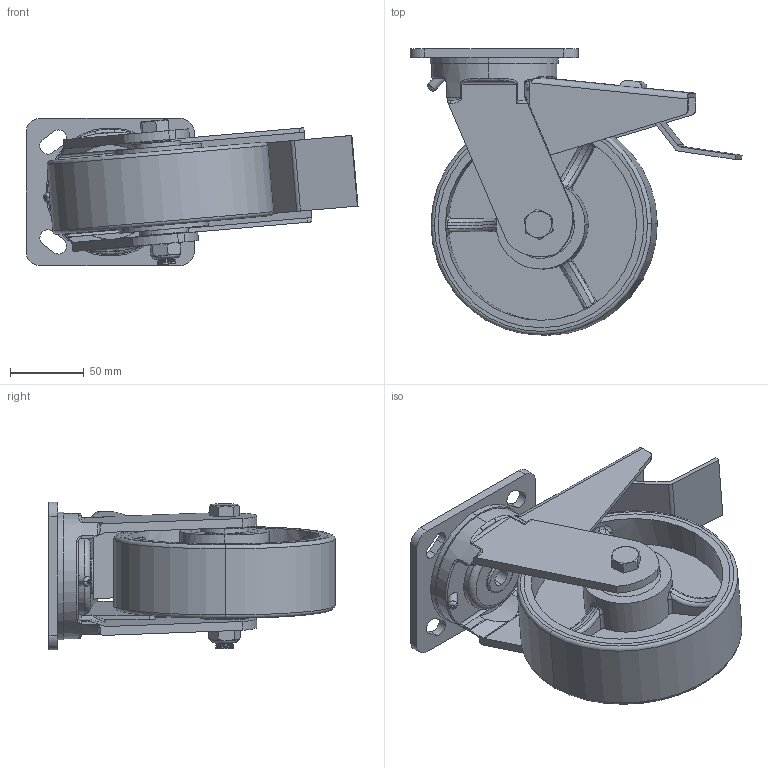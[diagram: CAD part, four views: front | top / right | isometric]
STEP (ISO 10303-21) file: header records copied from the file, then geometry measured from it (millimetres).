
FILE_DESCRIPTION (( 'STEP AP214' ), '1' );
FILE_NAME ('WXU150-P-TB.step', '2024-01-17T23:05:09', ( '' ), ( '' ), 'SwSTEP 2.0', 'SolidWorks 2022', '' );
FILE_SCHEMA (( 'AUTOMOTIVE_DESIGN' ));
Length unit declared in the file: millimetre
Products named in the file (8): SP20-12-62; WXU150-P-TB; M12 X 90; WX150-P-TB; M12NYLOC; MXU150; SP33X20X3; 100X114 PLATE
Assembly tree (8 placements, depth 2):
  WXU150-P-TB
    SP20-12-62
    M12 X 90
    M12NYLOC
    WX150-P-TB
    MXU150
    100X114 PLATE
    SP33X20X3  x2
Bounding box: 224.95 x 194 x 100 mm (x, y, z)
Volume: 766919.2 mm3; surface area: 213127.9 mm2
Topology: 9 solids, 9 shells, 798 faces, 2108 edges, 1363 vertices
Faces by surface type: plane 371, cylinder 194, bspline 164, torus 53, cone 16
Entity records: 41387 total; most frequent: CARTESIAN_POINT 20410, ORIENTED_EDGE 4192, DIRECTION 3304, EDGE_CURVE 2096, VERTEX_POINT 1355, VECTOR 1166, LINE 1166, AXIS2_PLACEMENT_3D 1069
